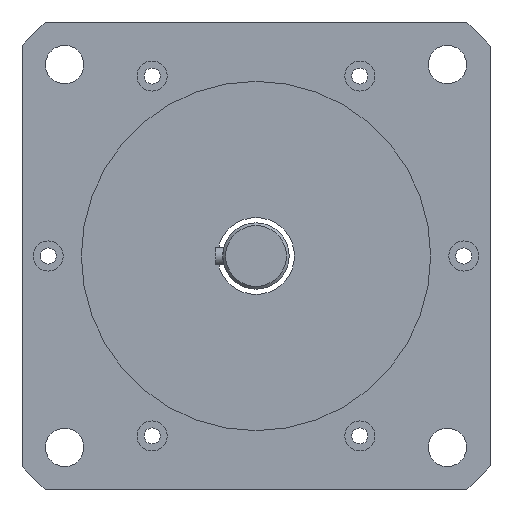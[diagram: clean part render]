
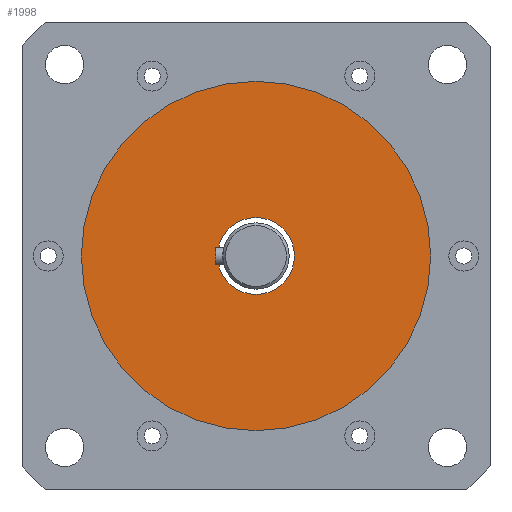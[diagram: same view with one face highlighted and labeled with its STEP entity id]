
A CAD part, left-side view. The second image highlights one B-rep face of the part: STEP entity #1998.
In plain terms, the highlighted planar face has unit normal (-1, 0, 0).
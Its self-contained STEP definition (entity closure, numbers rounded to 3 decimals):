
#214 = PLANE ( 'NONE',  #2549 ) ;
#437 = EDGE_LOOP ( 'NONE', ( #2166 ) ) ;
#457 = DIRECTION ( 'NONE',  ( 0., 0., 1. ) ) ;
#495 = CARTESIAN_POINT ( 'NONE',  ( -5., 0., 0. ) ) ;
#705 = DIRECTION ( 'NONE',  ( -1., 0., 0. ) ) ;
#895 = VERTEX_POINT ( 'NONE', #2349 ) ;
#1055 = DIRECTION ( 'NONE',  ( -1., 0., 0. ) ) ;
#1363 = FACE_OUTER_BOUND ( 'NONE', #2490, .T. ) ;
#1448 = EDGE_CURVE ( 'NONE', #2138, #2138, #3052, .T. ) ;
#1508 = FACE_BOUND ( 'NONE', #437, .T. ) ;
#1695 = CARTESIAN_POINT ( 'NONE',  ( -5., 0., 0. ) ) ;
#1767 = AXIS2_PLACEMENT_3D ( 'NONE', #2037, #1055, #2975 ) ;
#1916 = AXIS2_PLACEMENT_3D ( 'NONE', #495, #705, #3123 ) ;
#1951 = EDGE_CURVE ( 'NONE', #895, #895, #2296, .T. ) ;
#1998 = ADVANCED_FACE ( 'NONE', ( #1363, #1508 ), #214, .T. ) ;
#2037 = CARTESIAN_POINT ( 'NONE',  ( -5., 0., 0. ) ) ;
#2120 = CARTESIAN_POINT ( 'NONE',  ( -5., 0., 11. ) ) ;
#2138 = VERTEX_POINT ( 'NONE', #2120 ) ;
#2166 = ORIENTED_EDGE ( 'NONE', *, *, #1448, .F. ) ;
#2296 = CIRCLE ( 'NONE', #1916, 50. ) ;
#2349 = CARTESIAN_POINT ( 'NONE',  ( -5., 0., 50. ) ) ;
#2455 = ORIENTED_EDGE ( 'NONE', *, *, #1951, .T. ) ;
#2490 = EDGE_LOOP ( 'NONE', ( #2455 ) ) ;
#2549 = AXIS2_PLACEMENT_3D ( 'NONE', #1695, #2911, #457 ) ;
#2911 = DIRECTION ( 'NONE',  ( -1., 0., 0. ) ) ;
#2975 = DIRECTION ( 'NONE',  ( 0., 0., 1. ) ) ;
#3052 = CIRCLE ( 'NONE', #1767, 11. ) ;
#3123 = DIRECTION ( 'NONE',  ( 0., 0., 1. ) ) ;
